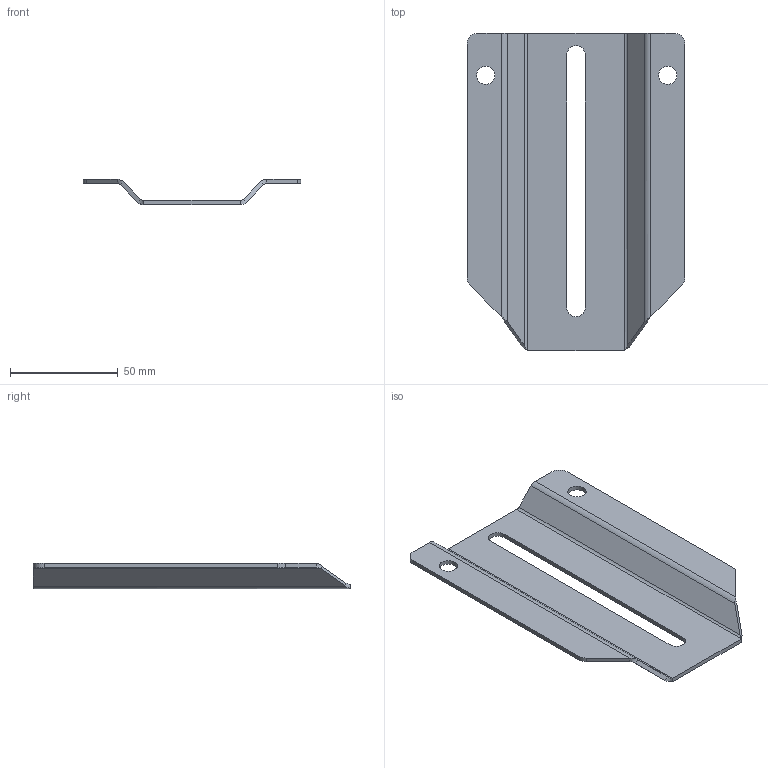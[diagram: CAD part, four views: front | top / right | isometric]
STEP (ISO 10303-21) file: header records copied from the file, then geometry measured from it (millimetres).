
FILE_DESCRIPTION(/* description */ (''),/* implementation_level */ '2;1');
FILE_NAME(/* name */ 'C:\Users\apromt\Desktop\tekeningen\stp\SG1100065001.stp',/* time_stamp */ '2021-11-11T08:54:41+01:00',/* author */ ('APromt'),/* organization */ ('BCK Holland b.v.'),/* preprocessor_version */ 'ST-DEVELOPER v18.1',/* originating_system */ 'Autodesk Inventor 2021',/* authorisation */ '');
FILE_SCHEMA (('AUTOMOTIVE_DESIGN { 1 0 10303 214 3 1 1 }'));
Length unit declared in the file: millimetre
Products named in the file (2): Verzameldocu; SG1100065001
Assembly tree (1 placements, depth 2):
  Verzameldocu
    SG1100065001
Bounding box: 101.21 x 147.5 x 11.78 mm (x, y, z)
Volume: 27716 mm3; surface area: 29288.1 mm2
Topology: 1 solids, 1 shells, 48 faces, 112 edges, 66 vertices
Faces by surface type: plane 28, cylinder 16, bspline 4
Full cylindrical faces by diameter (mm): 8.5 x2
Entity records: 1467 total; most frequent: CARTESIAN_POINT 313, ORIENTED_EDGE 224, DIRECTION 222, EDGE_CURVE 112, LINE 80, VECTOR 80, AXIS2_PLACEMENT_3D 71, VERTEX_POINT 66
